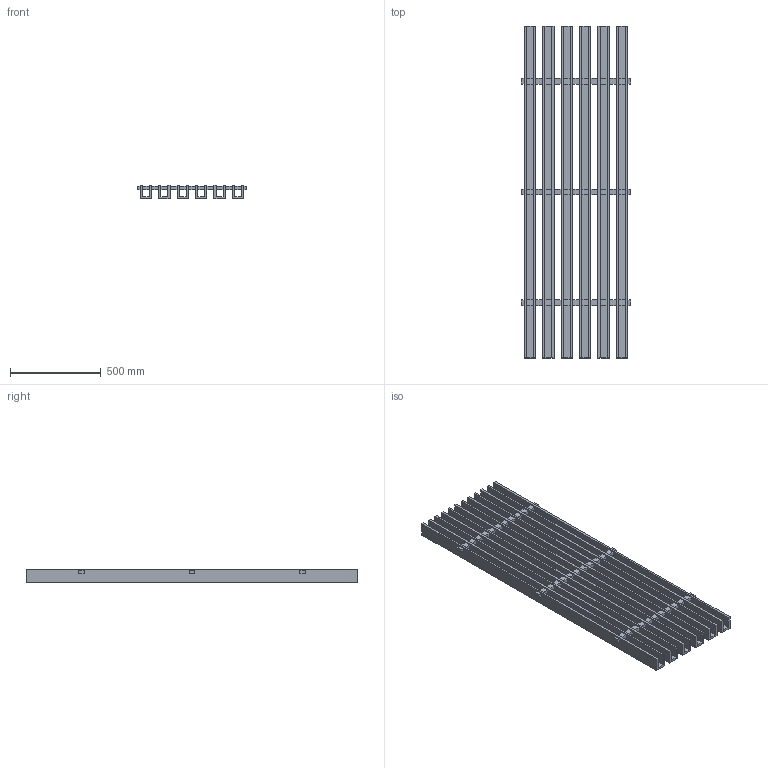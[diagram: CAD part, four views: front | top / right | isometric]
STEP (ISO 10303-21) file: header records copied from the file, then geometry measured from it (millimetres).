
FILE_DESCRIPTION(/* description */ (''),/* implementation_level */ '2;1');
FILE_NAME(/* name */ 'PET GRILLA_2.5x3_6ft',/* time_stamp */ '2024-10-15T14:21:47-05:00',/* author */ (''),/* organization */ (''),/* preprocessor_version */ 'ST-DEVELOPER v19.2',/* originating_system */ 'Rhino 8.4',/* authorisation */ '');
FILE_SCHEMA (('CONFIG_CONTROL_DESIGN'));
Length unit declared in the file: inch
Products named in the file (1): Document
Bounding box: 603.25 x 1828.8 x 76.2 mm (x, y, z)
Volume: 27365116.6 mm3; surface area: 4585877.9 mm2
Topology: 1 solids, 1 shells, 222 faces, 612 edges, 408 vertices
Faces by surface type: plane 222
Entity records: 6282 total; most frequent: CARTESIAN_POINT 1856, ORIENTED_EDGE 1224, EDGE_CURVE 612, B_SPLINE_CURVE_WITH_KNOTS 612, VERTEX_POINT 408, EDGE_LOOP 294, DIRECTION 226, AXIS2_PLACEMENT_3D 224
